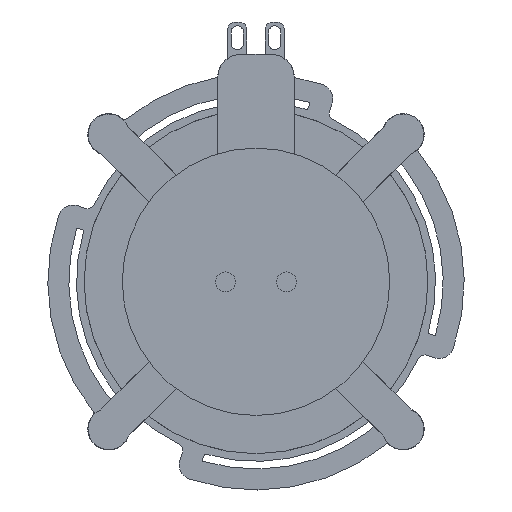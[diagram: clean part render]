
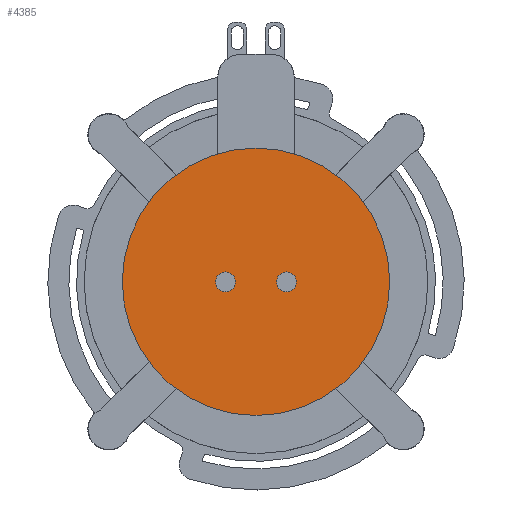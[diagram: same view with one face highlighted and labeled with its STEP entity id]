
A CAD part, front view. The second image highlights one B-rep face of the part: STEP entity #4385.
In plain terms, the highlighted planar face has unit normal (0, -1, 0).
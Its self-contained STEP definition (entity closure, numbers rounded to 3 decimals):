
#66=FACE_BOUND('',#1227,.T.);
#67=FACE_BOUND('',#1228,.T.);
#987=FACE_OUTER_BOUND('',#1226,.T.);
#1226=EDGE_LOOP('',(#2891));
#1227=EDGE_LOOP('',(#2892));
#1228=EDGE_LOOP('',(#2893));
#1492=CIRCLE('',#4639,1.3);
#1493=CIRCLE('',#4641,17.5);
#1495=CIRCLE('',#4644,1.3);
#1741=VERTEX_POINT('',#6488);
#1742=VERTEX_POINT('',#6492);
#1744=VERTEX_POINT('',#6498);
#2200=EDGE_CURVE('',#1741,#1741,#1492,.T.);
#2201=EDGE_CURVE('',#1742,#1742,#1493,.T.);
#2204=EDGE_CURVE('',#1744,#1744,#1495,.T.);
#2891=ORIENTED_EDGE('',*,*,#2201,.T.);
#2892=ORIENTED_EDGE('',*,*,#2204,.F.);
#2893=ORIENTED_EDGE('',*,*,#2200,.F.);
#4251=PLANE('',#4643);
#4385=ADVANCED_FACE('',(#987,#66,#67),#4251,.T.);
#4639=AXIS2_PLACEMENT_3D('',#6490,#5128,#5129);
#4641=AXIS2_PLACEMENT_3D('',#6493,#5132,#5133);
#4643=AXIS2_PLACEMENT_3D('',#6497,#5137,#5138);
#4644=AXIS2_PLACEMENT_3D('',#6499,#5139,#5140);
#5128=DIRECTION('center_axis',(0.,-1.,0.));
#5129=DIRECTION('ref_axis',(1.,0.,0.));
#5132=DIRECTION('center_axis',(0.,-1.,0.));
#5133=DIRECTION('ref_axis',(1.,0.,0.));
#5137=DIRECTION('center_axis',(0.,-1.,0.));
#5138=DIRECTION('ref_axis',(1.,0.,0.));
#5139=DIRECTION('center_axis',(0.,-1.,0.));
#5140=DIRECTION('ref_axis',(1.,0.,0.));
#6488=CARTESIAN_POINT('',(2.7,-24.,0.));
#6490=CARTESIAN_POINT('Origin',(4.,-24.,0.));
#6492=CARTESIAN_POINT('',(-17.5,-24.,0.));
#6493=CARTESIAN_POINT('Origin',(0.,-24.,0.));
#6497=CARTESIAN_POINT('Origin',(0.,-24.,0.));
#6498=CARTESIAN_POINT('',(-5.3,-24.,0.));
#6499=CARTESIAN_POINT('Origin',(-4.,-24.,0.));
